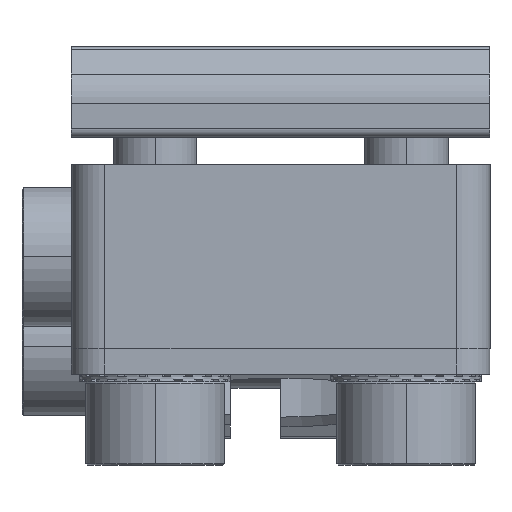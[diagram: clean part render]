
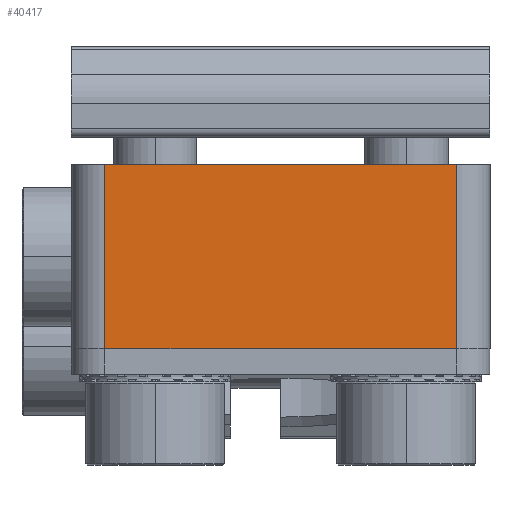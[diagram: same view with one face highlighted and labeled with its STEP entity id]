
A CAD part, left-side view. The second image highlights one B-rep face of the part: STEP entity #40417.
In plain terms, the highlighted planar face has unit normal (-1, 0, 0).
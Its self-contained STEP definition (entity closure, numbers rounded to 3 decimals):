
#578 = EDGE_LOOP ( 'NONE', ( #41305, #12194, #1399, #35965 ) ) ;
#1399 = ORIENTED_EDGE ( 'NONE', *, *, #31118, .T. ) ;
#3968 = DIRECTION ( 'NONE',  ( 0., -1., 0. ) ) ;
#4884 = LINE ( 'NONE', #11237, #20106 ) ;
#6719 = CARTESIAN_POINT ( 'NONE',  ( -75.156, 9.012, 16.732 ) ) ;
#11237 = CARTESIAN_POINT ( 'NONE',  ( -75.156, 30.012, 11.232 ) ) ;
#11395 = EDGE_CURVE ( 'NONE', #43386, #24465, #24592, .T. ) ;
#12194 = ORIENTED_EDGE ( 'NONE', *, *, #20135, .F. ) ;
#12541 = VECTOR ( 'NONE', #34254, 1000. ) ;
#13841 = VERTEX_POINT ( 'NONE', #16065 ) ;
#14536 = EDGE_CURVE ( 'NONE', #41630, #24465, #29569, .T. ) ;
#16065 = CARTESIAN_POINT ( 'NONE',  ( -75.156, 30.012, 5.732 ) ) ;
#16813 = CARTESIAN_POINT ( 'NONE',  ( -75.156, 19.512, 5.732 ) ) ;
#17112 = PLANE ( 'NONE',  #39538 ) ;
#18477 = CARTESIAN_POINT ( 'NONE',  ( -75.156, 30.012, 16.732 ) ) ;
#19939 = DIRECTION ( 'NONE',  ( 0., -1., 0. ) ) ;
#20106 = VECTOR ( 'NONE', #31585, 1000. ) ;
#20135 = EDGE_CURVE ( 'NONE', #13841, #41630, #4884, .T. ) ;
#23875 = DIRECTION ( 'NONE',  ( 0., 0., -1. ) ) ;
#24078 = CARTESIAN_POINT ( 'NONE',  ( -75.156, 19.512, 16.732 ) ) ;
#24465 = VERTEX_POINT ( 'NONE', #24941 ) ;
#24592 = LINE ( 'NONE', #40587, #12541 ) ;
#24941 = CARTESIAN_POINT ( 'NONE',  ( -75.156, 9.012, 16.732 ) ) ;
#26426 = VECTOR ( 'NONE', #3968, 1000. ) ;
#26813 = VECTOR ( 'NONE', #19939, 1000. ) ;
#29569 = LINE ( 'NONE', #24078, #26426 ) ;
#31118 = EDGE_CURVE ( 'NONE', #13841, #43386, #35795, .T. ) ;
#31585 = DIRECTION ( 'NONE',  ( 0., 0., 1. ) ) ;
#34254 = DIRECTION ( 'NONE',  ( 0., 0., 1. ) ) ;
#35795 = LINE ( 'NONE', #16813, #26813 ) ;
#35965 = ORIENTED_EDGE ( 'NONE', *, *, #11395, .T. ) ;
#36930 = CARTESIAN_POINT ( 'NONE',  ( -75.156, 9.012, 5.732 ) ) ;
#39538 = AXIS2_PLACEMENT_3D ( 'NONE', #6719, #40626, #23875 ) ;
#40207 = FACE_OUTER_BOUND ( 'NONE', #578, .T. ) ;
#40417 = ADVANCED_FACE ( 'NONE', ( #40207 ), #17112, .F. ) ;
#40587 = CARTESIAN_POINT ( 'NONE',  ( -75.156, 9.012, 11.232 ) ) ;
#40626 = DIRECTION ( 'NONE',  ( 1., 0., 0. ) ) ;
#41305 = ORIENTED_EDGE ( 'NONE', *, *, #14536, .F. ) ;
#41630 = VERTEX_POINT ( 'NONE', #18477 ) ;
#43386 = VERTEX_POINT ( 'NONE', #36930 ) ;
